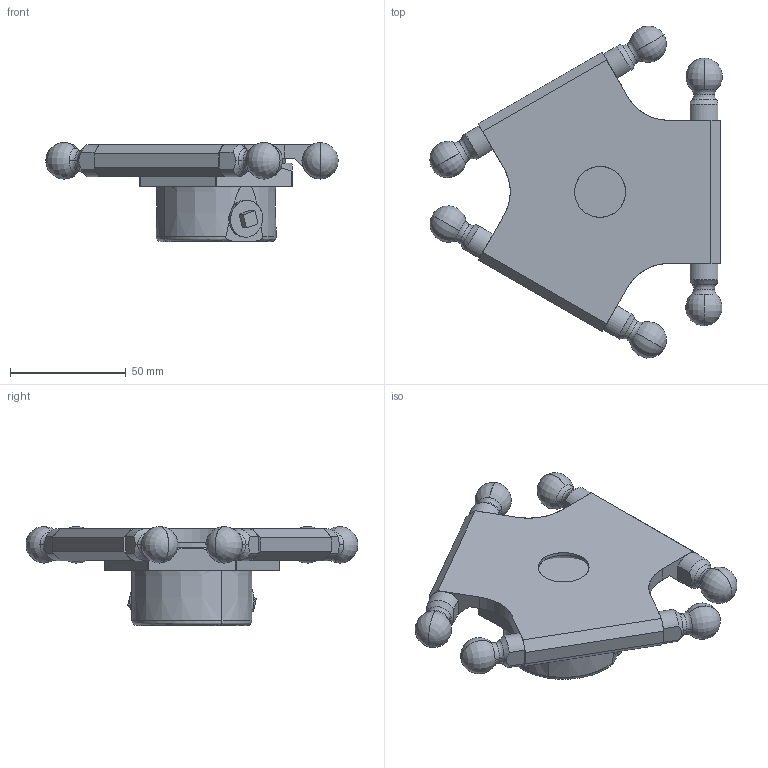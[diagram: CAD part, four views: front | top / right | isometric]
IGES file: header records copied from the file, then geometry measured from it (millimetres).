
Start section: SolidWorks IGES file using analytic representation for surfaces
Global section: file name: C:\Users\SELUHAA\Desktop\Work items\545792\IGES\IRB360_X-1130-STD-4D_rev03_IGES_J\IRB360_X-1130-STD-4D_rev03_PLATE_CAD.IGS; native system: SolidWorks 2022; preprocessor: SolidWorks 2022; author: SELUHAA; date: 231204.085855; units: millimetre
Bounding box: 126.6 x 143.71 x 42.94 mm (x, y, z)
Surface area: 64927.2 mm2 (no closed solid volume)
Topology: 0 solids, 0 shells, 258 faces, 4572 edges, 4566 vertices
Faces by surface type: revolution 135, bspline 123
